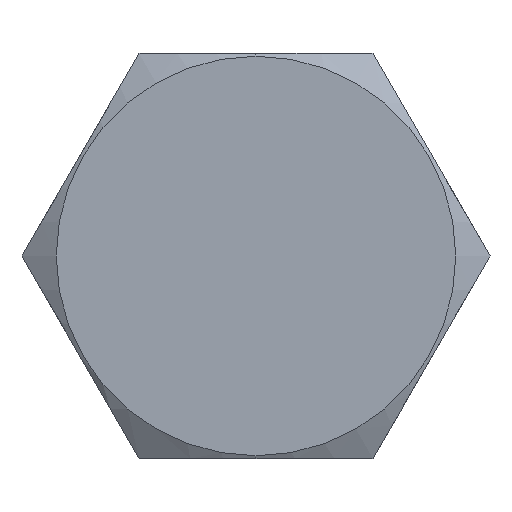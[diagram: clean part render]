
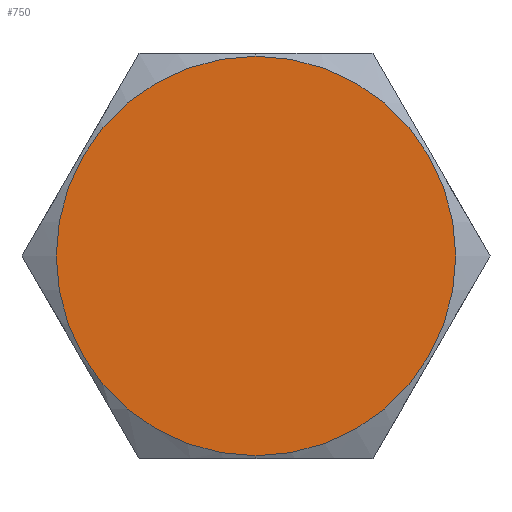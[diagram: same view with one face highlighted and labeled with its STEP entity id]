
A CAD part, left-side view. The second image highlights one B-rep face of the part: STEP entity #750.
In plain terms, the highlighted planar face has unit normal (-1, 0, 0).
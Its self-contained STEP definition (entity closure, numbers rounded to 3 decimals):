
#9 = ORIENTED_EDGE ( 'NONE', *, *, #419, .T. ) ;
#89 = DIRECTION ( 'NONE',  ( 0., 0., 1. ) ) ;
#193 = CARTESIAN_POINT ( 'NONE',  ( -7.4, -1.992, -3.45 ) ) ;
#297 = VERTEX_POINT ( 'NONE', #1945 ) ;
#345 = AXIS2_PLACEMENT_3D ( 'NONE', #1469, #1484, #3926 ) ;
#419 = EDGE_CURVE ( 'NONE', #737, #297, #1081, .T. ) ;
#497 = CIRCLE ( 'NONE', #345, 3.401 ) ;
#737 = VERTEX_POINT ( 'NONE', #3827 ) ;
#750 = ADVANCED_FACE ( 'NONE', ( #2953 ), #1768, .T. ) ;
#875 = AXIS2_PLACEMENT_3D ( 'NONE', #2868, #2219, #89 ) ;
#1081 = CIRCLE ( 'NONE', #875, 3.401 ) ;
#1469 = CARTESIAN_POINT ( 'NONE',  ( -7.4, 0., 0. ) ) ;
#1484 = DIRECTION ( 'NONE',  ( -1., 0., 0. ) ) ;
#1513 = ORIENTED_EDGE ( 'NONE', *, *, #2583, .T. ) ;
#1768 = PLANE ( 'NONE',  #2531 ) ;
#1945 = CARTESIAN_POINT ( 'NONE',  ( -7.4, 0., -3.401 ) ) ;
#2219 = DIRECTION ( 'NONE',  ( -1., 0., 0. ) ) ;
#2531 = AXIS2_PLACEMENT_3D ( 'NONE', #193, #2979, #2669 ) ;
#2583 = EDGE_CURVE ( 'NONE', #297, #737, #497, .T. ) ;
#2669 = DIRECTION ( 'NONE',  ( 0., 0., 1. ) ) ;
#2868 = CARTESIAN_POINT ( 'NONE',  ( -7.4, 0., 0. ) ) ;
#2953 = FACE_OUTER_BOUND ( 'NONE', #3537, .T. ) ;
#2979 = DIRECTION ( 'NONE',  ( -1., 0., 0. ) ) ;
#3537 = EDGE_LOOP ( 'NONE', ( #9, #1513 ) ) ;
#3827 = CARTESIAN_POINT ( 'NONE',  ( -7.4, 0., 3.401 ) ) ;
#3926 = DIRECTION ( 'NONE',  ( 0., 0., 1. ) ) ;
